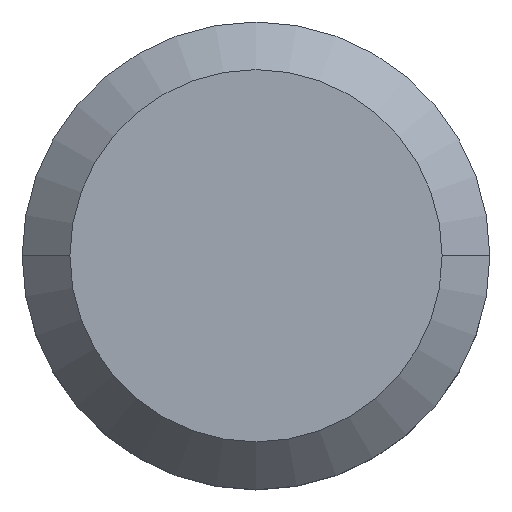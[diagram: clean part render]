
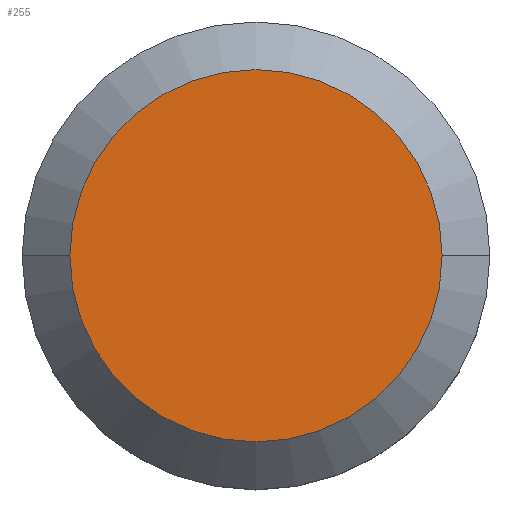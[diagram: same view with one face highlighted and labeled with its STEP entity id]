
A CAD part, top view. The second image highlights one B-rep face of the part: STEP entity #255.
In plain terms, the highlighted planar face has unit normal (0, 0, 1).
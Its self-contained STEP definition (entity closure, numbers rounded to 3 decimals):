
#3 = VERTEX_POINT ( 'NONE', #174 ) ;
#14 = AXIS2_PLACEMENT_3D ( 'NONE', #256, #392, #83 ) ;
#19 = CIRCLE ( 'NONE', #14, 7.8 ) ;
#29 = DIRECTION ( 'NONE',  ( 0., 0., 1. ) ) ;
#43 = DIRECTION ( 'NONE',  ( 0., 0., 1. ) ) ;
#71 = EDGE_LOOP ( 'NONE', ( #307, #254 ) ) ;
#80 = AXIS2_PLACEMENT_3D ( 'NONE', #354, #43, #180 ) ;
#83 = DIRECTION ( 'NONE',  ( 1., 0., 0. ) ) ;
#93 = DIRECTION ( 'NONE',  ( 1., 0., 0. ) ) ;
#132 = FACE_OUTER_BOUND ( 'NONE', #71, .T. ) ;
#158 = CARTESIAN_POINT ( 'NONE',  ( 0., 0., 9. ) ) ;
#162 = EDGE_CURVE ( 'NONE', #3, #164, #19, .T. ) ;
#164 = VERTEX_POINT ( 'NONE', #359 ) ;
#174 = CARTESIAN_POINT ( 'NONE',  ( -7.8, 0., 9. ) ) ;
#175 = AXIS2_PLACEMENT_3D ( 'NONE', #158, #29, #93 ) ;
#180 = DIRECTION ( 'NONE',  ( 1., 0., 0. ) ) ;
#214 = EDGE_CURVE ( 'NONE', #164, #3, #404, .T. ) ;
#233 = PLANE ( 'NONE',  #175 ) ;
#254 = ORIENTED_EDGE ( 'NONE', *, *, #214, .T. ) ;
#255 = ADVANCED_FACE ( 'NONE', ( #132 ), #233, .T. ) ;
#256 = CARTESIAN_POINT ( 'NONE',  ( 0., 0., 9. ) ) ;
#307 = ORIENTED_EDGE ( 'NONE', *, *, #162, .T. ) ;
#354 = CARTESIAN_POINT ( 'NONE',  ( 0., 0., 9. ) ) ;
#359 = CARTESIAN_POINT ( 'NONE',  ( 7.8, 0., 9. ) ) ;
#392 = DIRECTION ( 'NONE',  ( 0., 0., 1. ) ) ;
#404 = CIRCLE ( 'NONE', #80, 7.8 ) ;
